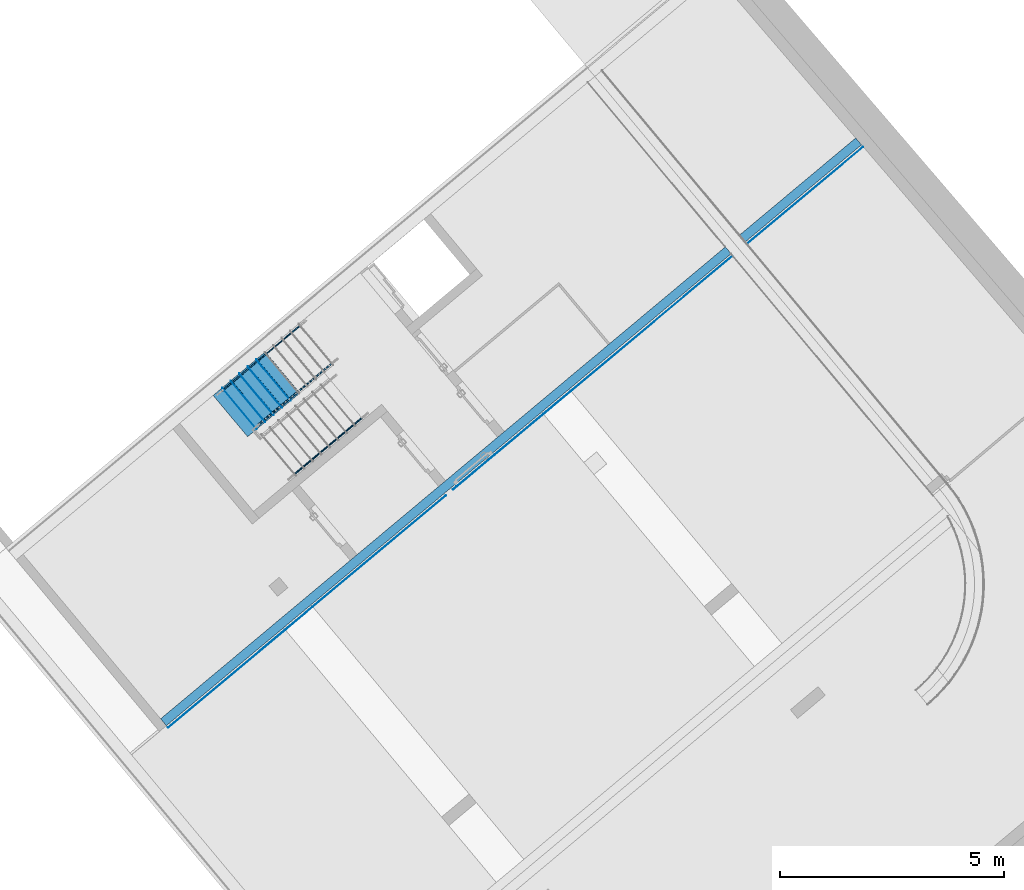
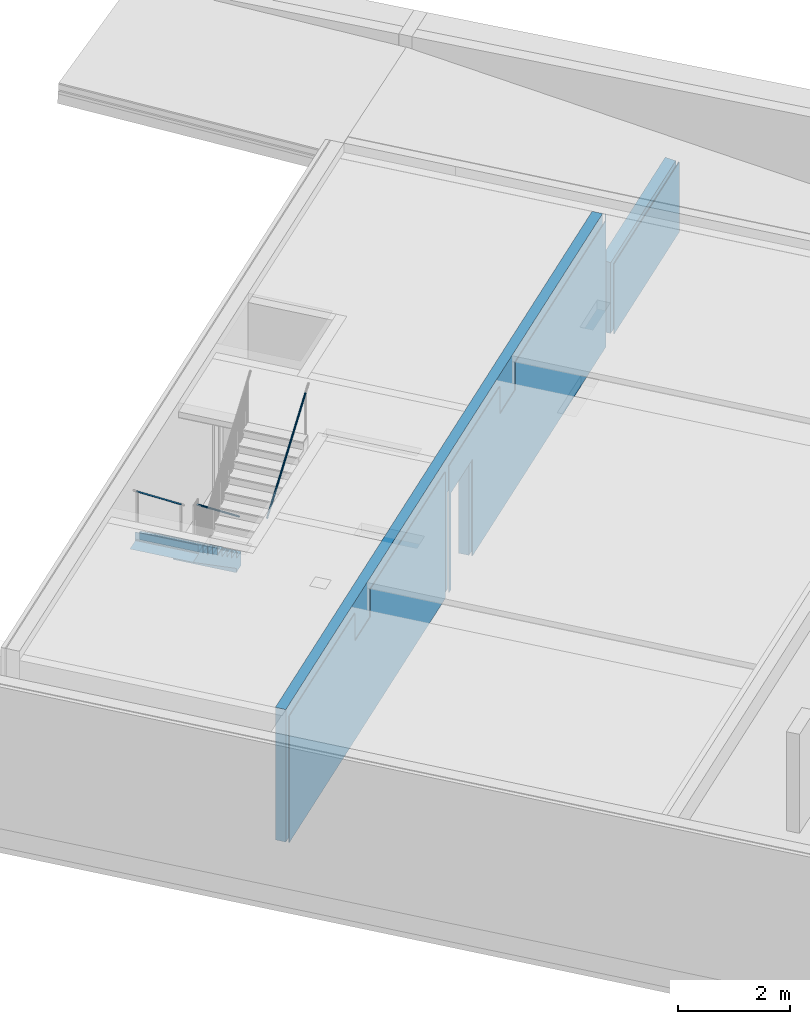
# One storey, part 9 of 17: 17 building element parts, 1 opening, 5 elements without a shape of their own.
"""IFC4 building model written with IfcOpenShell, lengths in metres."""

from ifc_helpers import new_model, entity, si_unit, converted_unit, derived_unit, direction, frame, origin_with_axes, place, context, subcontext, project, spatial, polygons, material, type_object, element, aggregate, save


model = new_model("IFC4")

# Units and contexts
model_context = context("Model", 3, precision=1e-05, world=origin_with_axes(), true_north=direction((0.0, 1.0)))
body_context = subcontext(model_context, "Body", "Model", "MODEL_VIEW")
ifc_project = project(units=[si_unit("LENGTHUNIT", "METRE"), si_unit("AREAUNIT", "SQUARE_METRE"), si_unit("VOLUMEUNIT", "CUBIC_METRE"), converted_unit("PLANEANGLEUNIT", "DEGREE", entity("IfcPlaneAngleMeasure", 0.0174532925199), si_unit("PLANEANGLEUNIT", "RADIAN"), dimensions=[0, 0, 0, 0, 0, 0, 0]), converted_unit("TIMEUNIT", "Year", entity("IfcTimeMeasure", 31556926.0), si_unit("TIMEUNIT", "SECOND"), dimensions=[0, 0, 1, 0, 0, 0, 0]), si_unit("MASSUNIT", "GRAM", prefix="KILO"), si_unit("THERMODYNAMICTEMPERATUREUNIT", "DEGREE_CELSIUS"), si_unit("LUMINOUSINTENSITYUNIT", "LUMEN"), si_unit("ENERGYUNIT", "JOULE", prefix="MEGA"), derived_unit("THERMALCONDUCTANCEUNIT", [(si_unit("POWERUNIT", "WATT"), 1), (si_unit("LENGTHUNIT", "METRE"), -1), (si_unit("THERMODYNAMICTEMPERATUREUNIT", "KELVIN"), -1)]), derived_unit("SPECIFICHEATCAPACITYUNIT", [(si_unit("ENERGYUNIT", "JOULE"), 1), (si_unit("MASSUNIT", "GRAM", prefix="KILO"), -1), (si_unit("THERMODYNAMICTEMPERATUREUNIT", "KELVIN"), -1)]), derived_unit("MASSDENSITYUNIT", [(si_unit("MASSUNIT", "GRAM", prefix="KILO"), 1), (si_unit("VOLUMEUNIT", "CUBIC_METRE"), -1)])], contexts=[model_context])

# Site, building, storey
site_placement = place(None, frame((-0.00153261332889, -0.00661245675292, 0.0), z_axis=(0.0, 0.0, 1.0), x_axis=(1.0, 0.0, 0.0)))
site = spatial("IfcSite", under=ifc_project, at=site_placement, Name="Site", CompositionType="ELEMENT")
building_placement = place(site_placement, origin_with_axes())
building = spatial("IfcBuilding", under=site, at=building_placement, Name="Building", CompositionType="ELEMENT")
storey_placement = place(building_placement, frame((0.0, 0.0, -3.3), z_axis=(0.0, 0.0, 1.0), x_axis=(1.0, 0.0, 0.0)))
storey = spatial("IfcBuildingStorey", under=building, at=storey_placement, Name="UG1", CompositionType="ELEMENT", Elevation=-3.3)

# Railing, building element parts
railing_type = type_object("IfcRailingType", Name="Geländerart", PredefinedType="NOTDEFINED")
railing_1_placement = place(storey_placement, frame((-0.202679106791, 23.9992163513, 0.0), z_axis=(0.0, 0.0, 1.0), x_axis=(1.0, 0.0, 0.0)))
railing_1 = element("IfcRailing", 1, at=railing_1_placement, inside=storey, type_object=railing_type, Name="Geländer - 001", PredefinedType="NOTDEFINED")
ifc_material_1 = material(Name="BEKLEIDUNG")
building_element_part_1_placement = place(railing_1_placement, origin_with_axes())
building_element_part_1 = element("IfcBuildingElementPart", 2, at=building_element_part_1_placement, material=ifc_material_1, Name="BEKLEIDUNG", PredefinedType="NOTDEFINED", context=body_context, shape_type="Tessellation", body=[
    polygons([(-0.225377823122, -0.142697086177, 0.88816072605), (-0.224296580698, -0.141496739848, 0.890216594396), (-1.85555729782, -1.50443347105, 2.54391411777), (-1.85741004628, -1.50627841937, 2.54264036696), (-0.226751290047, -0.143547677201, 0.886104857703), (-0.228375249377, -0.144022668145, 0.884111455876), (-0.230200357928, -0.144107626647, 0.882241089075), (-0.232171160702, -0.143799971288, 0.880550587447), (-0.234227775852, -0.143109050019, 0.87909131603), (-0.236307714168, -0.142055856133, 0.877907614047), (-0.238347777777, -0.140672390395, 0.877035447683), (-0.240285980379, -0.139000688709, 0.876501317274), (-0.242063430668, -0.137091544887, 0.8763214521), (-0.243626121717, -0.135002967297, 0.876501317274), (-0.244926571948, -0.132798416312, 0.877035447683), (-0.24592526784, -0.130544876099, 0.877907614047), (-0.246591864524, -0.128310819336, 0.87909131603), (-0.246906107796, -0.126164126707, 0.880550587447), (-0.246858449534, -0.124170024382, 0.882241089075), (-0.246450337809, -0.122389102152, 0.884111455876), (-0.245694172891, -0.120875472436, 0.886104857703), (-0.244612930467, -0.119675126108, 0.88816072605), (-0.243239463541, -0.118824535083, 0.890216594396), (-0.241615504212, -0.11834954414, 0.892209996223), (-0.23979039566, -0.118264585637, 0.894080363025), (-0.237819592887, -0.118572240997, 0.895770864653), (-0.235762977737, -0.119263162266, 0.89723013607), (-0.233683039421, -0.120316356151, 0.898413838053), (-0.231642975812, -0.12169982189, 0.899286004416), (-0.22970477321, -0.123371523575, 0.899820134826), (-0.227927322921, -0.125280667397, 0.9), (-0.226364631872, -0.127369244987, 0.899820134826), (-0.225064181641, -0.129573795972, 0.899286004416), (-0.224065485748, -0.131827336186, 0.898413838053), (-0.223398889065, -0.134061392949, 0.89723013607), (-0.223084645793, -0.136208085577, 0.895770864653), (-0.223132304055, -0.138202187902, 0.894080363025), (-0.223540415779, -0.139983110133, 0.892209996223), (-1.8540530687, -1.50229482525, 2.5451491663), (-1.85294306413, -1.49992746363, 2.54630798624), (-1.85226101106, -1.49740331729, 2.54735536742), (-1.85202763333, -1.49479908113, 2.5482594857), (-1.85225002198, -1.49219388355, 2.5489928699), (-1.85292141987, -1.48966688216, 2.54953323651), (-1.8540214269, -1.48729485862, 2.54986416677), (-1.85551661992, -1.48514988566, 2.54997560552), (-1.85736156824, -1.48329713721, 2.54986416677), (-1.85950021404, -1.48179290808, 2.54953323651), (-1.86186757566, -1.48068290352, 2.5489928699), (-1.864391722, -1.48000085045, 2.5482594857), (-1.86699595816, -1.47976747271, 2.54735536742), (-1.86960115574, -1.47998986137, 2.54630798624), (-1.87212815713, -1.48066125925, 2.5451491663), (-1.87450018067, -1.48176126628, 2.54391411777), (-1.87664515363, -1.4832564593, 2.54264036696), (-1.87849790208, -1.48510140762, 2.54136661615), (-1.88000213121, -1.48724005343, 2.54013156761), (-1.88111213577, -1.48960741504, 2.53897274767), (-1.88179418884, -1.49213156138, 2.53792536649), (-1.88202756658, -1.49473579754, 2.53702124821), (-1.88180517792, -1.49734099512, 2.53628786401), (-1.88113378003, -1.49986799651, 2.5357474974), (-1.880033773, -1.50224002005, 2.53541656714), (-1.87853857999, -1.50438499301, 2.53530512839), (-1.87669363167, -1.50623774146, 2.53541656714), (-1.87455498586, -1.50774197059, 2.5357474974), (-1.87218762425, -1.50885197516, 2.53628786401), (-1.86966347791, -1.50953402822, 2.53702124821), (-1.86705924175, -1.50976740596, 2.53792536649), (-1.86445404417, -1.5095450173, 2.53897274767), (-1.86192704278, -1.50887361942, 2.54013156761), (-1.85955501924, -1.50777361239, 2.54136661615)], [[[1, 2, 3, 4]], [[1, 5, 6, 7, 8, 9, 10, 11, 12, 13, 14, 15, 16, 17, 18, 19, 20, 21, 22, 23, 24, 25, 26, 27, 28, 29, 30, 31, 32, 33, 34, 35, 36, 37, 38, 2]], [[2, 38, 39, 3]], [[4, 3, 39, 40, 41, 42, 43, 44, 45, 46, 47, 48, 49, 50, 51, 52, 53, 54, 55, 56, 57, 58, 59, 60, 61, 62, 63, 64, 65, 66, 67, 68, 69, 70, 71, 72]], [[5, 1, 4, 72]], [[6, 5, 72, 71]], [[7, 6, 71, 70]], [[8, 7, 70, 69]], [[9, 8, 69, 68]], [[10, 9, 68, 67]], [[11, 10, 67, 66]], [[12, 11, 66, 65]], [[13, 12, 65, 64]], [[14, 13, 64, 63]], [[15, 14, 63, 62]], [[16, 15, 62, 61]], [[17, 16, 61, 60]], [[18, 17, 60, 59]], [[19, 18, 59, 58]], [[20, 19, 58, 57]], [[21, 20, 57, 56]], [[22, 21, 56, 55]], [[23, 22, 55, 54]], [[24, 23, 54, 53]], [[25, 24, 53, 52]], [[26, 25, 52, 51]], [[27, 26, 51, 50]], [[28, 27, 50, 49]], [[29, 28, 49, 48]], [[30, 29, 48, 47]], [[31, 30, 47, 46]], [[32, 31, 46, 45]], [[33, 32, 45, 44]], [[34, 33, 44, 43]], [[35, 34, 43, 42]], [[36, 35, 42, 41]], [[37, 36, 41, 40]], [[38, 37, 40, 39]]], closed=True),
])
building_element_part_2_placement = place(railing_1_placement, origin_with_axes())
building_element_part_2 = element("IfcBuildingElementPart", 3, at=building_element_part_2_placement, material=ifc_material_1, Name="BEKLEIDUNG", PredefinedType="NOTDEFINED", context=body_context, shape_type="Tessellation", body=[
    polygons([(-0.230051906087, -0.110766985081, 0.0798660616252), (-0.241831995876, -0.120609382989, 0.0601339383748), (-1.87312373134, -1.48357203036, 1.71386290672), (-1.85393876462, -1.46754277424, 1.72608830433), (-0.214022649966, -0.129951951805, 0.0798660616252), (-0.225802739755, -0.139794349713, 0.0601339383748), (-1.85709447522, -1.50275699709, 1.71386290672), (-1.8379095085, -1.48672774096, 1.72608830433)], [[[1, 2, 3, 4]], [[1, 5, 6, 2]], [[2, 6, 7, 3]], [[4, 3, 7, 8]], [[5, 1, 4, 8]], [[6, 5, 8, 7]]], closed=True),
])
aggregate(railing_1, [building_element_part_1, building_element_part_2])

# Railing, building element part
railing_2_placement = place(storey_placement, frame((0.454398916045, 22.776202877, 1.76666666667), z_axis=(0.0, 0.0, 1.0), x_axis=(1.0, 0.0, 0.0)))
railing_2 = element("IfcRailing", 4, at=railing_2_placement, inside=storey, type_object=railing_type, Name="Geländer - 001", PredefinedType="NOTDEFINED")
building_element_part_3_placement = place(railing_2_placement, origin_with_axes())
building_element_part_3 = element("IfcBuildingElementPart", 5, at=building_element_part_3_placement, material=ifc_material_1, Name="BEKLEIDUNG", PredefinedType="NOTDEFINED", context=body_context, shape_type="Tessellation", body=[
    polygons([(-0.212275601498, -0.131766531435, 2.30111559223), (-0.213581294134, -0.13256059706, 2.30323718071), (-1.7362771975, -1.40492254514, 0.889903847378), (-1.73497150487, -1.40412847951, 0.8877822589), (-0.211262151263, -0.130622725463, 2.29899400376), (-0.210571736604, -0.129163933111, 2.29693687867), (-0.210225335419, -0.127434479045, 2.29500672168), (-0.210233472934, -0.125486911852, 2.29326217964), (-0.210595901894, -0.123380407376, 2.29175625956), (-0.211301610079, -0.12117897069, 2.29053471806), (-0.212329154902, -0.118949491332, 2.28963467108), (-0.213647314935, -0.116759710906, 2.28908346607), (-0.215216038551, -0.114676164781, 2.28889785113), (-0.216987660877, -0.112762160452, 2.28908346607), (-0.218908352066, -0.111075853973, 2.28963467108), (-0.220919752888, -0.109668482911, 2.29053471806), (-0.222960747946, -0.108582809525, 2.29175625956), (-0.224969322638, -0.107851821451, 2.29326217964), (-0.226884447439, -0.107497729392, 2.29500672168), (-0.228647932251, -0.107531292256, 2.29693687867), (-0.230206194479, -0.107951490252, 2.29899400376), (-0.231511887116, -0.108745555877, 2.30111559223), (-0.23252533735, -0.109889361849, 2.30323718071), (-0.23321575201, -0.111348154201, 2.3052943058), (-0.233562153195, -0.113077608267, 2.30722446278), (-0.23355401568, -0.11502517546, 2.30896900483), (-0.23319158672, -0.117131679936, 2.31047492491), (-0.232485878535, -0.119333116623, 2.3116964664), (-0.231458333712, -0.12156259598, 2.31259651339), (-0.230140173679, -0.123752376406, 2.31314771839), (-0.228571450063, -0.125835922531, 2.31333333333), (-0.226799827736, -0.12774992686, 2.31314771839), (-0.224879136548, -0.12943623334, 2.31259651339), (-0.222867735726, -0.130843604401, 2.3116964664), (-0.220826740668, -0.131929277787, 2.31047492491), (-0.218818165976, -0.132660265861, 2.30896900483), (-0.216903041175, -0.13301435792, 2.30722446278), (-0.215139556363, -0.132980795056, 2.3052943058), (-1.73783545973, -1.40534274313, 0.891960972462), (-1.73959894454, -1.405376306, 0.89389112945), (-1.74151406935, -1.40502221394, 0.895635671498), (-1.74352264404, -1.40429122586, 0.897141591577), (-1.7455636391, -1.40320555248, 0.89836313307), (-1.74757503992, -1.40179818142, 0.899263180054), (-1.74949573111, -1.40011187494, 0.89981438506), (-1.75126735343, -1.39819787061, 0.9), (-1.75283607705, -1.39611432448, 0.89981438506), (-1.75415423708, -1.39392454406, 0.899263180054), (-1.7551817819, -1.3916950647, 0.89836313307), (-1.75588749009, -1.38949362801, 0.897141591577), (-1.75624991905, -1.38738712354, 0.895635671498), (-1.75625805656, -1.38543955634, 0.89389112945), (-1.75591165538, -1.38371010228, 0.891960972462), (-1.75522124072, -1.38225130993, 0.889903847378), (-1.75420779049, -1.38110750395, 0.8877822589), (-1.75290209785, -1.38031343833, 0.885660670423), (-1.75134383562, -1.37989324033, 0.883603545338), (-1.74958035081, -1.37985967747, 0.881673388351), (-1.74766522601, -1.38021376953, 0.879928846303), (-1.74565665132, -1.3809447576, 0.878422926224), (-1.74361565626, -1.38203043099, 0.877201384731), (-1.74160425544, -1.38343780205, 0.876301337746), (-1.73968356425, -1.38512410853, 0.875750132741), (-1.73791194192, -1.38703811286, 0.875564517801), (-1.7363432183, -1.38912165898, 0.875750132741), (-1.73502505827, -1.39131143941, 0.876301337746), (-1.73399751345, -1.39354091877, 0.877201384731), (-1.73329180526, -1.39574235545, 0.878422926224), (-1.7329293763, -1.39784885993, 0.879928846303), (-1.73292123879, -1.39979642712, 0.881673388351), (-1.73326763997, -1.40152588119, 0.883603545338), (-1.73395805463, -1.40298467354, 0.885660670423)], [[[1, 2, 3, 4]], [[1, 5, 6, 7, 8, 9, 10, 11, 12, 13, 14, 15, 16, 17, 18, 19, 20, 21, 22, 23, 24, 25, 26, 27, 28, 29, 30, 31, 32, 33, 34, 35, 36, 37, 38, 2]], [[2, 38, 39, 3]], [[4, 3, 39, 40, 41, 42, 43, 44, 45, 46, 47, 48, 49, 50, 51, 52, 53, 54, 55, 56, 57, 58, 59, 60, 61, 62, 63, 64, 65, 66, 67, 68, 69, 70, 71, 72]], [[5, 1, 4, 72]], [[6, 5, 72, 71]], [[7, 6, 71, 70]], [[8, 7, 70, 69]], [[9, 8, 69, 68]], [[10, 9, 68, 67]], [[11, 10, 67, 66]], [[12, 11, 66, 65]], [[13, 12, 65, 64]], [[14, 13, 64, 63]], [[15, 14, 63, 62]], [[16, 15, 62, 61]], [[17, 16, 61, 60]], [[18, 17, 60, 59]], [[19, 18, 59, 58]], [[20, 19, 58, 57]], [[21, 20, 57, 56]], [[22, 21, 56, 55]], [[23, 22, 55, 54]], [[24, 23, 54, 53]], [[25, 24, 53, 52]], [[26, 25, 52, 51]], [[27, 26, 51, 50]], [[28, 27, 50, 49]], [[29, 28, 49, 48]], [[30, 29, 48, 47]], [[31, 30, 47, 46]], [[32, 31, 46, 45]], [[33, 32, 45, 44]], [[34, 33, 44, 43]], [[35, 34, 43, 42]], [[36, 35, 42, 41]], [[37, 36, 41, 40]], [[38, 37, 40, 39]]], closed=True),
])
aggregate(railing_2, [building_element_part_3])

# Stair, building element parts
stair_type = type_object("IfcStairType", Name="Treppentyp", PredefinedType="NOTDEFINED")
stair_placement = place(storey_placement, frame((-0.972083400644, 24.9200947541, 0.0), z_axis=(0.0, 0.0, 1.0), x_axis=(1.0, 0.0, 0.0)))
stair = element("IfcStair", 6, at=stair_placement, inside=storey, type_object=stair_type, Name="Treppe - 001", PredefinedType="NOTDEFINED")
ifc_material_2 = material(Name="Stahlbeton Decke")
building_element_part_4_placement = place(stair_placement, origin_with_axes())
building_element_part_4 = element("IfcBuildingElementPart", 7, at=building_element_part_4_placement, material=ifc_material_2, Name="Stahlbeton Decke", PredefinedType="NOTDEFINED", context=body_context, shape_type="Tessellation", body=[
    polygons([(-1.89949387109, -1.58704854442, 1.54166666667), (-1.13008955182, -2.5079269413, 1.54166666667), (-1.13008956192, -2.50792694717, 1.565), (-1.89949385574, -1.58704854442, 1.565), (-2.11780239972, -1.76944779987, 1.54166666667), (-1.34839808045, -2.69032619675, 1.54166666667), (-1.13008955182, -2.5079269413, 1.33791842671), (-1.06699233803, -2.45520850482, 1.27902954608), (-1.00389511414, -2.40249006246, 1.22014065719), (-0.940797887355, -2.34977162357, 1.1612517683), (-0.877700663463, -2.29705318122, 1.10236287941), (-0.81460343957, -2.24433473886, 1.04347399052), (-0.751506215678, -2.19161629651, 0.984585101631), (-0.688408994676, -2.13889785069, 0.925696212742), (-0.625311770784, -2.08617940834, 0.866807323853), (-0.562214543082, -2.03346097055, 0.807918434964), (-0.499117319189, -1.98074252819, 0.749029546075), (-0.436020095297, -1.92802408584, 0.690140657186), (-0.372922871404, -1.87530564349, 0.631251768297), (-0.309825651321, -1.82258719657, 0.572362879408), (-0.246728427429, -1.76986875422, 0.51347399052), (-0.183631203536, -1.71715031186, 0.454585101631), (-0.120533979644, -1.66443186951, 0.395696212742), (-0.0574367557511, -1.61171342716, 0.336807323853), (0.00566047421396, -1.55899499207, 0.277918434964), (0.0687576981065, -1.50627654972, 0.219029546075), (0.131854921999, -1.45355810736, 0.160140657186), (0.194952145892, -1.40083966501, 0.101251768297), (0.25804936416, -1.34812121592, 0.0423628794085), (0.321146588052, -1.29540277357, -0.0165260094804), (0.36242411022, -1.26091493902, -0.0550504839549), (0.362424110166, -1.26091493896, -0.15), (0.554273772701, -1.10062237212, -0.15), (0.554273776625, -1.10062237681, 0.151666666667), (0.364982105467, -1.2587777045, 0.151666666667), (0.364982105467, -1.2587777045, 0.328333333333), (0.175690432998, -1.41693303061, 0.328333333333), (0.175690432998, -1.41693303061, 0.505), (-0.0136012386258, -1.57508835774, 0.505), (-0.0136012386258, -1.57508835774, 0.681666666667), (-0.202892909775, -1.73324368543, 0.681666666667), (-0.202892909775, -1.73324368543, 0.858333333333), (-0.392184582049, -1.89139901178, 0.858333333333), (-0.392184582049, -1.89139901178, 1.035), (-0.581476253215, -2.04955433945, 1.035), (-0.581476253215, -2.04955433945, 1.21166666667), (-0.770767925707, -2.20770966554, 1.21166666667), (-0.770767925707, -2.20770966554, 1.38833333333), (-0.96005959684, -2.36586499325, 1.38833333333), (-0.96005959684, -2.36586499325, 1.565), (-1.72946389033, -1.44498659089, 1.565), (-1.72946389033, -1.44498659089, 1.38833333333), (-1.54017221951, -1.28683126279, 1.38833333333), (-1.54017221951, -1.28683126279, 1.21166666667), (-1.35088054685, -1.12867593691, 1.21166666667), (-1.35088054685, -1.12867593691, 1.035), (-1.16158887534, -0.970520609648, 1.035), (-1.16158887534, -0.970520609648, 0.858333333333), (-0.972297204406, -0.812365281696, 0.858333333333), (-0.972297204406, -0.812365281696, 0.681666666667), (-0.783005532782, -0.65420995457, 0.681666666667), (-0.783005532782, -0.65420995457, 0.505), (-0.59371386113, -0.496054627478, 0.505), (-0.59371386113, -0.496054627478, 0.328333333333), (-0.404422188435, -0.337899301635, 0.328333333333), (-0.404422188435, -0.337899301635, 0.151666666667), (-0.215130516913, -0.179743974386, 0.151666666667), (-0.215130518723, -0.17974397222, -0.15), (-0.406980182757, -0.340036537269, -0.15), (-0.40698018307, -0.340036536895, -0.0550504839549), (-0.448257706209, -0.374524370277, -0.0165260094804), (-0.511354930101, -0.427242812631, 0.0423628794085), (-0.574452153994, -0.479961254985, 0.101251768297), (-0.637549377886, -0.532679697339, 0.160140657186), (-0.700646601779, -0.585398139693, 0.219029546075), (-0.763743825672, -0.638116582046, 0.277918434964), (-0.826841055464, -0.690835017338, 0.336807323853), (-0.889938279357, -0.743553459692, 0.395696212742), (-0.953035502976, -0.796271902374, 0.454585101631), (-1.01613272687, -0.848990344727, 0.51347399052), (-1.07922995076, -0.901708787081, 0.572362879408), (-1.14232717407, -0.954427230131, 0.631251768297), (-1.20542439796, -1.00714567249, 0.690140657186), (-1.26852162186, -1.05986411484, 0.749029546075), (-1.3316188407, -1.11258256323, 0.807918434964), (-1.3947160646, -1.16530100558, 0.866807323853), (-1.45781328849, -1.21801944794, 0.925696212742), (-1.52091051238, -1.27073789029, 0.984585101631), (-1.58400773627, -1.32345633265, 1.04347399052), (-1.64710496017, -1.376174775, 1.10236287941), (-1.71020218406, -1.42889321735, 1.1612517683), (-1.77329941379, -1.48161165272, 1.22014065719), (-1.83639663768, -1.53433009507, 1.27902954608), (-1.89949387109, -1.58704854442, 1.3379184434)], [[[1, 2, 3, 4]], [[2, 1, 5, 6]], [[7, 8, 9, 10, 11, 12, 13, 14, 15, 16, 17, 18, 19, 20, 21, 22, 23, 24, 25, 26, 27, 28, 29, 30, 31, 32, 33, 34, 35, 36, 37, 38, 39, 40, 41, 42, 43, 44, 45, 46, 47, 48, 49, 50, 3, 2, 6]], [[3, 50, 51, 4]], [[1, 4, 51, 52, 53, 54, 55, 56, 57, 58, 59, 60, 61, 62, 63, 64, 65, 66, 67, 68, 69, 70, 71, 72, 73, 74, 75, 76, 77, 78, 79, 80, 81, 82, 83, 84, 85, 86, 87, 88, 89, 90, 91, 92, 93, 94, 5]], [[94, 93, 8, 7, 6, 5]], [[9, 8, 93, 92]], [[10, 9, 92, 91]], [[11, 10, 91, 90]], [[12, 11, 90, 89]], [[13, 12, 89, 88]], [[14, 13, 88, 87]], [[15, 14, 87, 86]], [[16, 15, 86, 85]], [[17, 16, 85, 84]], [[18, 17, 84, 83]], [[19, 18, 83, 82]], [[20, 19, 82, 81]], [[21, 20, 81, 80]], [[22, 21, 80, 79]], [[23, 22, 79, 78]], [[24, 23, 78, 77]], [[25, 24, 77, 76]], [[26, 25, 76, 75]], [[27, 26, 75, 74]], [[28, 27, 74, 73]], [[29, 28, 73, 72]], [[30, 29, 72, 71]], [[30, 71, 70, 31]], [[69, 32, 31, 70]], [[69, 68, 33, 32]], [[68, 67, 34, 33]], [[67, 66, 35, 34]], [[66, 65, 36, 35]], [[37, 36, 65, 64]], [[64, 63, 38, 37]], [[38, 63, 62, 39]], [[62, 61, 40, 39]], [[40, 61, 60, 41]], [[60, 59, 42, 41]], [[42, 59, 58, 43]], [[58, 57, 44, 43]], [[44, 57, 56, 45]], [[56, 55, 46, 45]], [[46, 55, 54, 47]], [[54, 53, 48, 47]], [[48, 53, 52, 49]], [[52, 51, 50, 49]]], closed=True),
])
building_element_part_5_placement = place(stair_placement, origin_with_axes())
building_element_part_5 = element("IfcBuildingElementPart", 8, at=building_element_part_5_placement, material=ifc_material_1, Name="BEKLEIDUNG", PredefinedType="NOTDEFINED", context=body_context, shape_type="Tessellation", body=[
    polygons([(-1.15383814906, -0.964044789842, 1.035), (-1.16151213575, -0.970456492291, 1.035), (-0.392107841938, -1.89133489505, 1.035), (-0.384433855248, -1.8849231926, 1.035), (-1.15383814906, -0.964044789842, 0.883333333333), (-1.16151213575, -0.970456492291, 0.883333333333), (-0.392107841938, -1.89133489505, 0.883333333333), (-0.384433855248, -1.8849231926, 0.883333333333)], [[[1, 2, 3, 4]], [[1, 5, 6, 2]], [[2, 6, 7, 3]], [[4, 3, 7, 8]], [[5, 1, 4, 8]], [[6, 5, 8, 7]]], closed=True),
])
building_element_part_6_placement = place(stair_placement, origin_with_axes())
building_element_part_6 = element("IfcBuildingElementPart", 9, at=building_element_part_6_placement, material=ifc_material_1, Name="BEKLEIDUNG", PredefinedType="NOTDEFINED", context=body_context, shape_type="Tessellation", body=[
    polygons([(-1.34312982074, -1.1222001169, 1.21166666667), (-1.35080380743, -1.12861181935, 1.21166666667), (-0.581399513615, -2.04949022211, 1.21166666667), (-0.573725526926, -2.04307851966, 1.21166666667), (-1.34312982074, -1.1222001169, 1.06), (-1.35080380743, -1.12861181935, 1.06), (-0.581399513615, -2.04949022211, 1.06), (-0.573725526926, -2.04307851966, 1.06)], [[[1, 2, 3, 4]], [[1, 5, 6, 2]], [[2, 6, 7, 3]], [[4, 3, 7, 8]], [[5, 1, 4, 8]], [[6, 5, 8, 7]]], closed=True),
])
building_element_part_7_placement = place(stair_placement, origin_with_axes())
building_element_part_7 = element("IfcBuildingElementPart", 10, at=building_element_part_7_placement, material=ifc_material_1, Name="BEKLEIDUNG", PredefinedType="NOTDEFINED", context=body_context, shape_type="Tessellation", body=[
    polygons([(-1.53242149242, -1.28035544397, 1.38833333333), (-1.54009547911, -1.28676714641, 1.38833333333), (-0.770691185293, -2.20764554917, 1.38833333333), (-0.763017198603, -2.20123384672, 1.38833333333), (-1.53242149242, -1.28035544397, 1.23666666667), (-1.54009547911, -1.28676714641, 1.23666666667), (-0.770691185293, -2.20764554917, 1.23666666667), (-0.763017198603, -2.20123384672, 1.23666666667)], [[[1, 2, 3, 4]], [[1, 5, 6, 2]], [[2, 6, 7, 3]], [[4, 3, 7, 8]], [[5, 1, 4, 8]], [[6, 5, 8, 7]]], closed=True),
])
building_element_part_8_placement = place(stair_placement, origin_with_axes())
building_element_part_8 = element("IfcBuildingElementPart", 11, at=building_element_part_8_placement, material=ifc_material_1, Name="BEKLEIDUNG", PredefinedType="NOTDEFINED", context=body_context, shape_type="Tessellation", body=[
    polygons([(-1.72171316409, -1.43851077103, 1.565), (-1.72938715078, -1.44492247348, 1.565), (-0.959982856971, -2.36580087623, 1.565), (-0.952308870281, -2.35938917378, 1.565), (-1.72171316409, -1.43851077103, 1.41333333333), (-1.72938715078, -1.44492247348, 1.41333333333), (-0.959982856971, -2.36580087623, 1.41333333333), (-0.952308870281, -2.35938917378, 1.41333333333)], [[[1, 2, 3, 4]], [[1, 5, 6, 2]], [[2, 6, 7, 3]], [[4, 3, 7, 8]], [[5, 1, 4, 8]], [[6, 5, 8, 7]]], closed=True),
])
building_element_part_9_placement = place(stair_placement, origin_with_axes())
building_element_part_9 = element("IfcBuildingElementPart", 12, at=building_element_part_9_placement, material=ifc_material_1, Name="BEKLEIDUNG", PredefinedType="NOTDEFINED", context=body_context, shape_type="Tessellation", body=[
    polygons([(-1.91100483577, -1.59666609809, 1.74166666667), (-1.91867882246, -1.60307780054, 1.74166666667), (-1.14927452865, -2.52395620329, 1.74166666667), (-1.14160054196, -2.51754450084, 1.74166666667), (-1.91100483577, -1.59666609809, 1.59), (-1.91867882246, -1.60307780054, 1.59), (-1.14927452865, -2.52395620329, 1.59), (-1.14160054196, -2.51754450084, 1.59)], [[[1, 2, 3, 4]], [[1, 5, 6, 2]], [[2, 6, 7, 3]], [[4, 3, 7, 8]], [[5, 1, 4, 8]], [[6, 5, 8, 7]]], closed=True),
])
building_element_part_10_placement = place(stair_placement, origin_with_axes())
building_element_part_10 = element("IfcBuildingElementPart", 13, at=building_element_part_10_placement, material=ifc_material_1, Name="BEKLEIDUNG", PredefinedType="NOTDEFINED", context=body_context, shape_type="Tessellation", body=[
    polygons([(-0.183631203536, -1.71715031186, 0.858333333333), (-0.953035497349, -0.796271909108, 0.858333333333), (-0.953035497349, -0.796271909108, 0.883333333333), (-0.183631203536, -1.71715031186, 0.883333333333), (-0.392107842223, -1.89133489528, 0.858333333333), (-1.16151213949, -0.970456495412, 0.858333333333), (-1.16151213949, -0.970456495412, 0.883333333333), (-0.392107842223, -1.89133489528, 0.883333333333)], [[[1, 2, 3, 4]], [[1, 5, 6, 2]], [[2, 6, 7, 3]], [[4, 3, 7, 8]], [[5, 1, 4, 8]], [[6, 5, 8, 7]]], closed=True),
])
building_element_part_11_placement = place(stair_placement, origin_with_axes())
building_element_part_11 = element("IfcBuildingElementPart", 14, at=building_element_part_11_placement, material=ifc_material_1, Name="BEKLEIDUNG", PredefinedType="NOTDEFINED", context=body_context, shape_type="Tessellation", body=[
    polygons([(-0.372922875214, -1.87530563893, 1.035), (-1.14232716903, -0.95442723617, 1.035), (-1.14232716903, -0.95442723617, 1.06), (-0.372922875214, -1.87530563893, 1.06), (-0.581399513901, -2.04949022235, 1.035), (-1.35080381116, -1.12861182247, 1.035), (-1.35080381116, -1.12861182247, 1.06), (-0.581399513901, -2.04949022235, 1.06)], [[[1, 2, 3, 4]], [[1, 5, 6, 2]], [[2, 6, 7, 3]], [[4, 3, 7, 8]], [[5, 1, 4, 8]], [[6, 5, 8, 7]]], closed=True),
])
building_element_part_12_placement = place(stair_placement, origin_with_axes())
building_element_part_12 = element("IfcBuildingElementPart", 15, at=building_element_part_12_placement, material=ifc_material_1, Name="BEKLEIDUNG", PredefinedType="NOTDEFINED", context=body_context, shape_type="Tessellation", body=[
    polygons([(-0.562214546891, -2.03346096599, 1.21166666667), (-1.3316188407, -1.11258256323, 1.21166666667), (-1.3316188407, -1.11258256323, 1.23666666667), (-0.562214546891, -2.03346096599, 1.23666666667), (-0.770691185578, -2.20764554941, 1.21166666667), (-1.54009548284, -1.28676714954, 1.21166666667), (-1.54009548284, -1.28676714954, 1.23666666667), (-0.770691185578, -2.20764554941, 1.23666666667)], [[[1, 2, 3, 4]], [[1, 5, 6, 2]], [[2, 6, 7, 3]], [[4, 3, 7, 8]], [[5, 1, 4, 8]], [[6, 5, 8, 7]]], closed=True),
])
building_element_part_13_placement = place(stair_placement, origin_with_axes())
building_element_part_13 = element("IfcBuildingElementPart", 16, at=building_element_part_13_placement, material=ifc_material_1, Name="BEKLEIDUNG", PredefinedType="NOTDEFINED", context=body_context, shape_type="Tessellation", body=[
    polygons([(-0.751506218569, -2.19161629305, 1.38833333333), (-1.52091051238, -1.27073789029, 1.38833333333), (-1.52091051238, -1.27073789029, 1.41333333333), (-0.751506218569, -2.19161629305, 1.41333333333), (-0.959982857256, -2.36580087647, 1.38833333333), (-1.72938715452, -1.4449224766, 1.38833333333), (-1.72938715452, -1.4449224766, 1.41333333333), (-0.959982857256, -2.36580087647, 1.41333333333)], [[[1, 2, 3, 4]], [[1, 5, 6, 2]], [[2, 6, 7, 3]], [[4, 3, 7, 8]], [[5, 1, 4, 8]], [[6, 5, 8, 7]]], closed=True),
])
building_element_part_14_placement = place(stair_placement, origin_with_axes())
building_element_part_14 = element("IfcBuildingElementPart", 17, at=building_element_part_14_placement, material=ifc_material_1, Name="BEKLEIDUNG", PredefinedType="NOTDEFINED", context=body_context, shape_type="Tessellation", body=[
    polygons([(-0.940797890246, -2.34977162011, 1.565), (-1.71020218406, -1.42889321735, 1.565), (-1.71020218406, -1.42889321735, 1.59), (-0.940797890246, -2.34977162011, 1.59), (-1.14927452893, -2.52395620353, 1.565), (-1.9186788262, -1.60307780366, 1.565), (-1.9186788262, -1.60307780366, 1.59), (-1.14927452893, -2.52395620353, 1.59)], [[[1, 2, 3, 4]], [[1, 5, 6, 2]], [[2, 6, 7, 3]], [[4, 3, 7, 8]], [[5, 1, 4, 8]], [[6, 5, 8, 7]]], closed=True),
])
aggregate(stair, [building_element_part_4, building_element_part_5, building_element_part_6, building_element_part_7, building_element_part_8, building_element_part_9, building_element_part_10, building_element_part_11, building_element_part_12, building_element_part_13, building_element_part_14])

# Railing, building element part
railing_3_placement = place(storey_placement, frame((-0.972083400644, 24.9200947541, 0.0), z_axis=(0.0, 0.0, 1.0), x_axis=(1.0, 0.0, 0.0)))
railing_3 = element("IfcRailing", 18, at=railing_3_placement, inside=storey, type_object=railing_type, Name="Geländer - 001", PredefinedType="NOTDEFINED")
building_element_part_15_placement = place(railing_3_placement, origin_with_axes())
building_element_part_15 = element("IfcBuildingElementPart", 19, at=building_element_part_15_placement, material=ifc_material_1, Name="BEKLEIDUNG", PredefinedType="NOTDEFINED", context=body_context, shape_type="Tessellation", body=[
    polygons([(-0.171824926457, -0.192428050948, 0.9), (-0.183623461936, -0.202285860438, 0.880286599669), (-1.92194510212, -1.65467320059, 2.64695326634), (-1.91014656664, -1.6448153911, 2.66666666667), (-0.155795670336, -0.211613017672, 0.9), (-0.167594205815, -0.221470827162, 0.880286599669), (-1.90591584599, -1.67385816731, 2.64695326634), (-1.89411731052, -1.66400035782, 2.66666666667)], [[[1, 2, 3, 4]], [[1, 5, 6, 2]], [[2, 6, 7, 3]], [[4, 3, 7, 8]], [[5, 1, 4, 8]], [[6, 5, 8, 7]]], closed=True),
])
aggregate(railing_3, [building_element_part_15])

# Wall, opening, building element parts
wall_type = type_object("IfcWallType", Name="LB 6,5 cm einfach Vorsatzschale + STB 265", PredefinedType="NOTDEFINED")
wall_placement = place(storey_placement, frame((-4.41276224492, 15.8190674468, 0.0), z_axis=(0.0, 0.0, 1.0), x_axis=(0.767365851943, 0.641209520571, 0.0)))
wall = element("IfcWall", 20, at=wall_placement, inside=storey, type_object=wall_type, Name="Wand-007", PredefinedType="NOTDEFINED")
opening_placement = place(wall_placement, frame((9.12588353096, 0.0, 0.0), z_axis=(0.0, 0.0, 1.0), x_axis=(1.0, 0.0, 0.0)))
element("IfcOpeningElement", 21, at=opening_placement, cuts=wall, Name="Tür-001", context=body_context, identifier="Reference", shape_type="Tessellation", body=[
    polygons([(-0.55, -0.13, 2.1), (0.55, -0.13, 2.1), (0.55, 10.1497562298, 2.1), (-0.55, 10.1497562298, 2.1), (-0.55, -10.4147562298, 2.1), (0.55, -10.4147562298, 2.1), (0.55, -0.13, 0.0), (0.55, 10.1497562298, 0.0), (-0.55, 10.1497562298, 0.0), (-0.55, -0.13, 0.0), (-0.55, -10.4147562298, 0.0), (0.55, -10.4147562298, 0.0)], [[[1, 2, 3, 4]], [[2, 1, 5, 6]], [[2, 7, 8, 3]], [[3, 8, 9, 4]], [[10, 1, 4, 9]], [[1, 10, 11, 5]], [[5, 11, 12, 6]], [[7, 2, 6, 12]], [[7, 10, 9, 8]], [[10, 7, 12, 11]]], closed=True),
])
ifc_material_3 = material(Name="Stahlbeton Wand")
building_element_part_16_placement = place(wall_placement, origin_with_axes())
building_element_part_16 = element("IfcBuildingElementPart", 22, at=building_element_part_16_placement, material=ifc_material_3, Name="Stahlbeton Wand", PredefinedType="NOTDEFINED", context=body_context, shape_type="Tessellation", body=[
    polygons([(20.3757566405, 0.0, 1.57079260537), (20.3785150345, -0.2, 1.53912019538), (20.3785150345, -0.2, 0.0), (20.3757566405, 0.0, 0.0), (17.0098769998, -0.2, 1.53487563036), (17.0098810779, 0.0, 1.56655152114), (17.0098769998, -0.2, 0.0), (17.0098810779, 0.0, 0.0)], [[[1, 2, 3, 4]], [[5, 2, 1, 6]], [[2, 5, 7, 3]], [[3, 7, 8, 4]], [[6, 1, 4, 8]], [[5, 6, 8, 7]]], closed=True),
    polygons([(8.57588353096, -0.2, 0.0), (8.57588353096, -0.2, 2.1), (9.67588353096, -0.2, 2.1), (9.67588353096, -0.2, 0.0), (16.5948769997, -0.2, 0.0), (16.5948769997, -0.2, 2.88), (0.200000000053, -0.2, 2.88), (0.200000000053, -0.2, 0.0), (8.57588353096, -0.13, 0.0), (8.57588353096, -0.13, 2.1), (9.67588353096, -0.13, 2.1), (9.67588353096, -0.13, 0.0), (9.67588353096, 0.0, 0.0), (16.5948810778, 0.0, 0.0), (16.5948810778, 0.0, 2.88), (0.200004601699, 0.0, 2.88), (0.200004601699, 0.0, 0.0), (8.57588353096, 0.0, 0.0), (8.57588353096, 0.0, 2.1), (9.67588353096, 0.0, 2.1)], [[[1, 2, 3, 4, 5, 6, 7, 8]], [[2, 1, 9, 10]], [[3, 2, 10, 11]], [[4, 3, 11, 12]], [[4, 12, 13, 14, 5]], [[5, 14, 15, 6]], [[16, 7, 6, 15]], [[16, 17, 8, 7]], [[9, 1, 8, 17, 18]], [[10, 9, 18, 19]], [[11, 10, 19, 20]], [[12, 11, 20, 13]], [[14, 13, 20, 19, 18, 17, 16, 15]]], closed=True),
])
ifc_material_4 = material(Name="Gipskarton")
building_element_part_17_placement = place(wall_placement, origin_with_axes())
building_element_part_17 = element("IfcBuildingElementPart", 23, at=building_element_part_17_placement, material=ifc_material_4, Name="Gipskarton", PredefinedType="NOTDEFINED", context=body_context, shape_type="Tessellation", body=[
    polygons([(8.57588353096, -0.265, 0.0), (8.57588353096, -0.265, 2.1), (9.67588353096, -0.265, 2.1), (9.67588353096, -0.265, 0.0), (16.5898756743, -0.265, 0.0), (16.5898756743, -0.265, 2.88), (16.5897339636, -0.265, 2.88), (16.5897339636, -0.265, 2.75), (11.8956057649, -0.265, 2.75), (11.8956057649, -0.265, 2.15), (11.0956057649, -0.265, 2.15), (11.0956057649, -0.265, 2.75), (8.47084877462, -0.265, 2.75), (8.47084877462, -0.265, 0.0), (8.57588353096, -0.25, 0.0), (8.57588353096, -0.25, 2.1), (9.67588353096, -0.25, 2.1), (9.67588353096, -0.25, 0.0), (16.5898759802, -0.25, 0.0), (16.5898759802, -0.25, 2.88), (16.5897339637, -0.25, 2.88), (16.5897339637, -0.25, 2.75), (11.8956057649, -0.25, 2.75), (11.8956057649, -0.25, 2.15), (11.0956057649, -0.25, 2.15), (11.0956057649, -0.25, 2.75), (8.47084877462, -0.25, 2.75), (8.47084877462, -0.25, 0.0)], [[[1, 2, 3, 4, 5, 6, 7, 8, 9, 10, 11, 12, 13, 14]], [[2, 1, 15, 16]], [[3, 2, 16, 17]], [[4, 3, 17, 18]], [[4, 18, 19, 5]], [[19, 20, 6, 5]], [[21, 7, 6, 20]], [[21, 22, 8, 7]], [[9, 8, 22, 23]], [[9, 23, 24, 10]], [[10, 24, 25, 11]], [[12, 11, 25, 26]], [[26, 27, 13, 12]], [[13, 27, 28, 14]], [[15, 1, 14, 28]], [[16, 15, 28, 27, 26, 25, 24, 23, 22, 21, 20, 19, 18, 17]]], closed=True),
    polygons([(4.40043924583, -0.25, 2.75), (4.40043924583, -0.265, 2.75), (8.27084877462, -0.265, 2.75), (8.27084877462, -0.25, 2.75), (4.40043924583, -0.265, 2.1499999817), (4.40043924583, -0.25, 2.1499999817), (3.60043924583, -0.265, 2.1499999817), (3.60043924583, -0.265, 2.75), (0.199998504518, -0.265, 2.75), (0.199998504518, -0.265, 0.0), (8.27084877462, -0.265, 0.0), (8.27084877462, -0.25, 0.0), (0.199998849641, -0.25, 0.0), (0.199998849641, -0.25, 2.75), (3.60043924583, -0.25, 2.75), (3.60043924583, -0.25, 2.1499999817)], [[[1, 2, 3, 4]], [[5, 2, 1, 6]], [[7, 8, 9, 10, 11, 3, 2, 5]], [[12, 4, 3, 11]], [[6, 1, 4, 12, 13, 14, 15, 16]], [[7, 5, 6, 16]], [[15, 8, 7, 16]], [[8, 15, 14, 9]], [[10, 9, 14, 13]], [[13, 12, 11, 10]]], closed=True),
    polygons([(20.3792046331, -0.25, 1.53120209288), (20.3794115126, -0.265, 1.52882666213), (20.3794115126, -0.265, 0.0), (20.3792046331, -0.25, 0.0), (17.0098756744, -0.265, 1.52458096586), (17.0098759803, -0.25, 1.52695665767), (17.0098756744, -0.265, 0.0), (17.0098759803, -0.25, 0.0)], [[[1, 2, 3, 4]], [[5, 2, 1, 6]], [[2, 5, 7, 3]], [[3, 7, 8, 4]], [[6, 1, 4, 8]], [[5, 6, 8, 7]]], closed=True),
])
aggregate(wall, [building_element_part_16, building_element_part_17])

save(model, "model.ifc")
